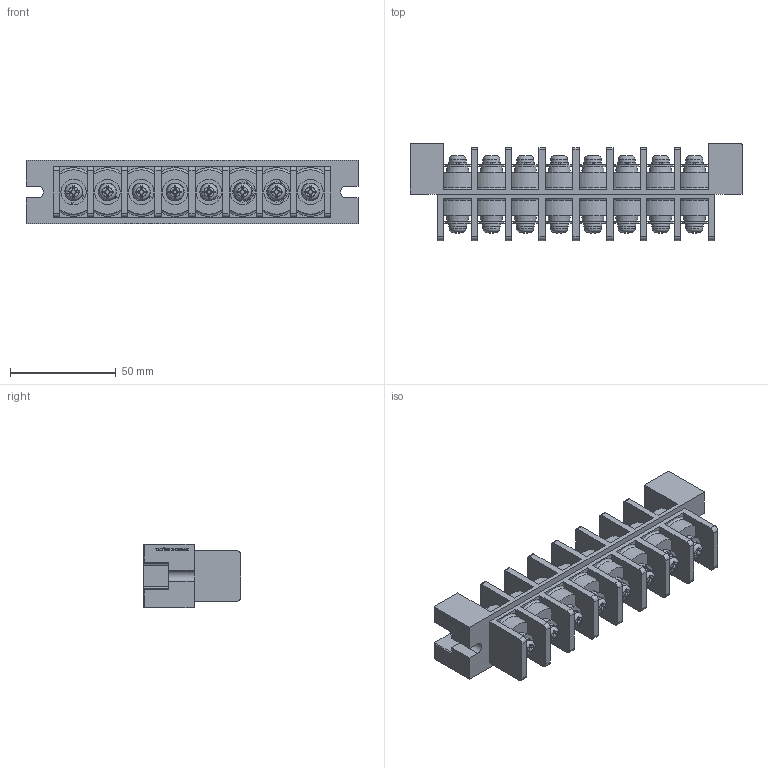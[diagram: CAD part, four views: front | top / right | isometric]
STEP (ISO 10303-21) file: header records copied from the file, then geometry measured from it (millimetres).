
FILE_DESCRIPTION(/* description */ ('Alibre Inc.'),/* implementation_level */ '2;1');
FILE_NAME(/* name */ 'export0',/* time_stamp */ '2016-01-14T19:28:43+09:00',/* author */ (''),/* organization */ (''),/* preprocessor_version */ 'ST-DEVELOPER v14',/* originating_system */ 'Alibre',/* authorisation */ '');
FILE_SCHEMA (('CONFIG_CONTROL_DESIGN'));
Length unit declared in the file: centimetre
Products named in the file (1): ID_1
Bounding box: 157 x 46 x 30 mm (x, y, z)
Volume: 97993.7 mm3; surface area: 41131.2 mm2
Topology: 1 solids, 25 shells, 1106 faces, 2920 edges, 1919 vertices
Faces by surface type: plane 598, cylinder 216, cone 128, sphere 64, bspline 52, torus 48
Full cylindrical faces by diameter (mm): 4.55 x2, 5 x24, 8 x16, 10.75 x16, 12 x16
Entity records: 33984 total; most frequent: CARTESIAN_POINT 9408, ORIENTED_EDGE 5402, DIRECTION 4135, EDGE_CURVE 2701, VERTEX_POINT 1854, AXIS2_PLACEMENT_3D 1693, EDGE_LOOP 1347, FACE_BOUND 1347
